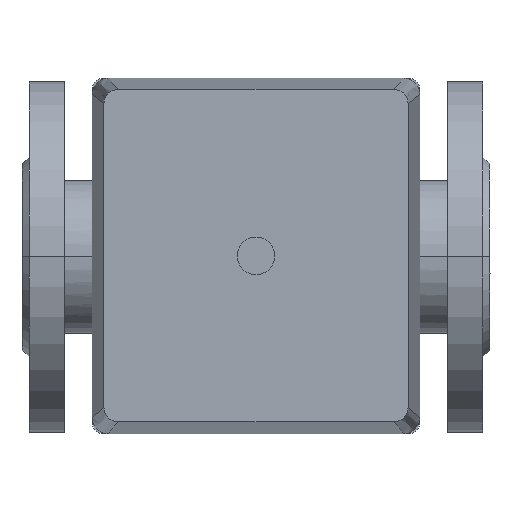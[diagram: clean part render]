
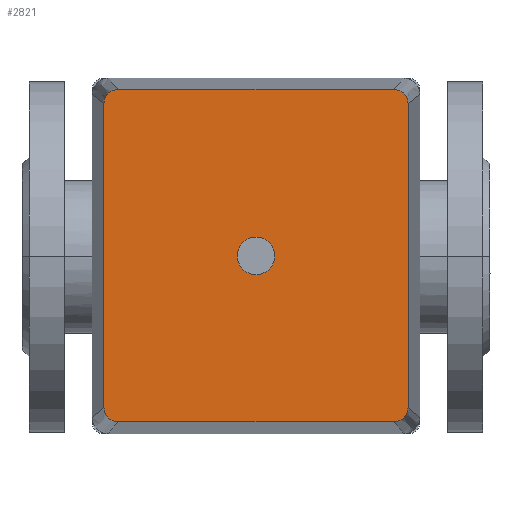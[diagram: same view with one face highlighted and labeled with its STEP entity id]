
A CAD part, top view. The second image highlights one B-rep face of the part: STEP entity #2821.
In plain terms, the highlighted planar face has unit normal (0, 0, 1).
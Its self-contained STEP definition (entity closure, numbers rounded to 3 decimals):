
#280=LINE('',#4878,#464);
#281=LINE('',#4882,#465);
#282=LINE('',#4886,#466);
#283=LINE('',#4890,#467);
#464=VECTOR('',#3896,304.8);
#465=VECTOR('',#3899,304.8);
#466=VECTOR('',#3902,304.8);
#467=VECTOR('',#3905,304.8);
#735=FACE_OUTER_BOUND('',#925,.T.);
#925=EDGE_LOOP('',(#2290,#2291,#2292,#2293,#2294,#2295,#2296,#2297));
#1104=CIRCLE('',#3143,6.);
#1105=CIRCLE('',#3144,6.);
#1106=CIRCLE('',#3145,6.);
#1107=CIRCLE('',#3146,6.);
#1336=VERTEX_POINT('',#4876);
#1337=VERTEX_POINT('',#4877);
#1338=VERTEX_POINT('',#4879);
#1339=VERTEX_POINT('',#4881);
#1340=VERTEX_POINT('',#4883);
#1341=VERTEX_POINT('',#4885);
#1342=VERTEX_POINT('',#4887);
#1343=VERTEX_POINT('',#4889);
#1666=EDGE_CURVE('',#1336,#1337,#280,.T.);
#1667=EDGE_CURVE('',#1337,#1338,#1104,.T.);
#1668=EDGE_CURVE('',#1338,#1339,#281,.T.);
#1669=EDGE_CURVE('',#1339,#1340,#1105,.T.);
#1670=EDGE_CURVE('',#1340,#1341,#282,.T.);
#1671=EDGE_CURVE('',#1341,#1342,#1106,.T.);
#1672=EDGE_CURVE('',#1342,#1343,#283,.T.);
#1673=EDGE_CURVE('',#1343,#1336,#1107,.T.);
#2290=ORIENTED_EDGE('',*,*,#1666,.T.);
#2291=ORIENTED_EDGE('',*,*,#1667,.T.);
#2292=ORIENTED_EDGE('',*,*,#1668,.T.);
#2293=ORIENTED_EDGE('',*,*,#1669,.T.);
#2294=ORIENTED_EDGE('',*,*,#1670,.T.);
#2295=ORIENTED_EDGE('',*,*,#1671,.T.);
#2296=ORIENTED_EDGE('',*,*,#1672,.T.);
#2297=ORIENTED_EDGE('',*,*,#1673,.T.);
#2549=PLANE('',#3142);
#2821=ADVANCED_FACE('',(#735),#2549,.T.);
#3142=AXIS2_PLACEMENT_3D('',#4875,#3894,#3895);
#3143=AXIS2_PLACEMENT_3D('',#4880,#3897,#3898);
#3144=AXIS2_PLACEMENT_3D('',#4884,#3900,#3901);
#3145=AXIS2_PLACEMENT_3D('',#4888,#3903,#3904);
#3146=AXIS2_PLACEMENT_3D('',#4891,#3906,#3907);
#3894=DIRECTION('center_axis',(0.,0.,1.));
#3895=DIRECTION('ref_axis',(0.,-1.,0.));
#3896=DIRECTION('',(0.,-1.,0.));
#3897=DIRECTION('center_axis',(0.,0.,1.));
#3898=DIRECTION('ref_axis',(1.,0.,0.));
#3899=DIRECTION('',(1.,0.,0.));
#3900=DIRECTION('center_axis',(0.,0.,1.));
#3901=DIRECTION('ref_axis',(1.,0.,0.));
#3902=DIRECTION('',(0.,1.,0.));
#3903=DIRECTION('center_axis',(0.,0.,1.));
#3904=DIRECTION('ref_axis',(1.,0.,0.));
#3905=DIRECTION('',(-1.,0.,0.));
#3906=DIRECTION('center_axis',(0.,0.,1.));
#3907=DIRECTION('ref_axis',(1.,0.,0.));
#4875=CARTESIAN_POINT('Origin',(0.,0.,
220.));
#4876=CARTESIAN_POINT('',(-71.,59.,220.));
#4877=CARTESIAN_POINT('',(-71.,-59.,220.));
#4878=CARTESIAN_POINT('',(-71.,-59.,220.));
#4879=CARTESIAN_POINT('',(-65.,-65.,220.));
#4880=CARTESIAN_POINT('Origin',(-65.,-59.,220.));
#4881=CARTESIAN_POINT('',(65.,-65.,220.));
#4882=CARTESIAN_POINT('',(65.,-65.,220.));
#4883=CARTESIAN_POINT('',(71.,-59.,220.));
#4884=CARTESIAN_POINT('Origin',(65.,-59.,220.));
#4885=CARTESIAN_POINT('',(71.,59.,220.));
#4886=CARTESIAN_POINT('',(71.,59.,220.));
#4887=CARTESIAN_POINT('',(65.,65.,220.));
#4888=CARTESIAN_POINT('Origin',(65.,59.,220.));
#4889=CARTESIAN_POINT('',(-65.,65.,220.));
#4890=CARTESIAN_POINT('',(-65.,65.,220.));
#4891=CARTESIAN_POINT('Origin',(-65.,59.,220.));
